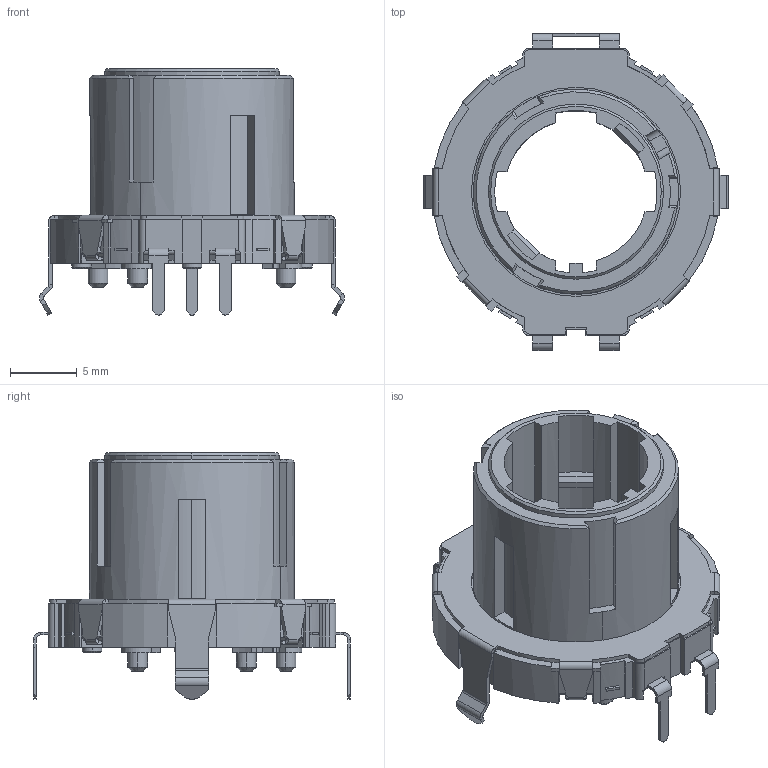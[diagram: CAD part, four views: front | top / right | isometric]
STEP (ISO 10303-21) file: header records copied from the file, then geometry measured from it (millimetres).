
FILE_DESCRIPTION (( 'STEP AP214' ), '1' );
FILE_NAME ('EC21A1520407.STEP', '2015-12-09T03:43:24', ( '' ), ( '' ), 'SwSTEP 2.0', 'SolidWorks 2014', '' );
FILE_SCHEMA (( 'AUTOMOTIVE_DESIGN' ));
Length unit declared in the file: millimetre
Products named in the file (1): EC21A1520407
Bounding box: 22.9 x 23.8 x 18.5 mm (x, y, z)
Volume: 1751.8 mm3; surface area: 2333 mm2
Topology: 1 solids, 1 shells, 641 faces, 1692 edges, 1070 vertices
Faces by surface type: plane 427, cylinder 166, bspline 28, cone 20
Entity records: 27165 total; most frequent: CARTESIAN_POINT 4324, ORIENTED_EDGE 3384, DIRECTION 3136, EDGE_CURVE 1692, LINE 1208, VECTOR 1208, VERTEX_POINT 1070, AXIS2_PLACEMENT_3D 964
